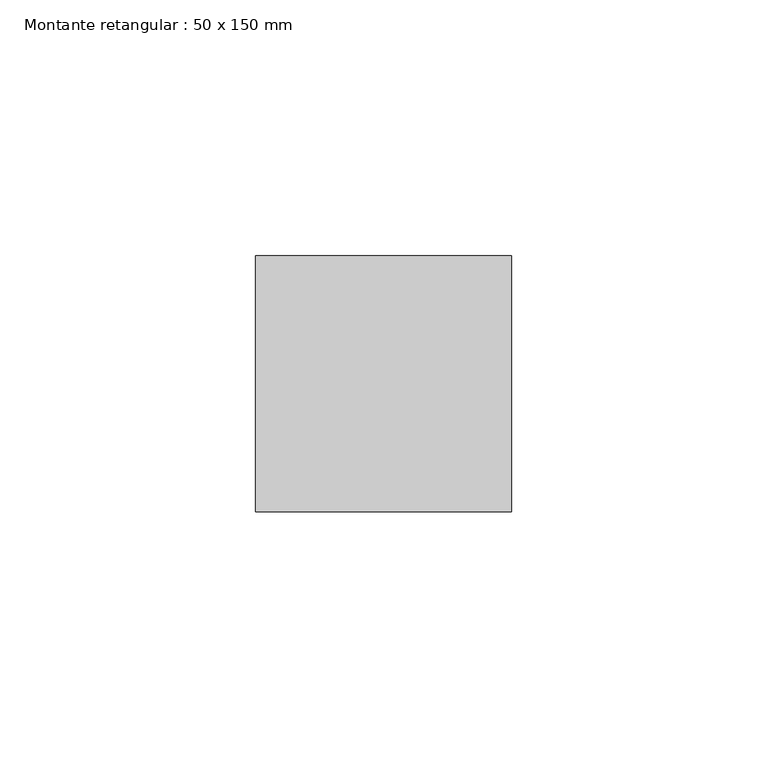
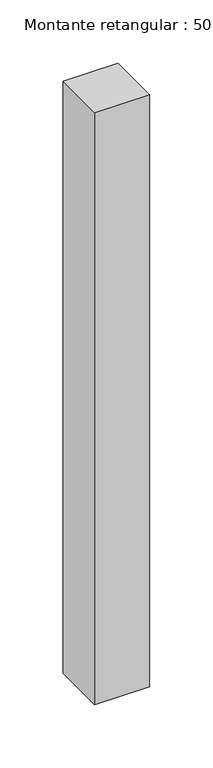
"""IFC4 building model written with IfcOpenShell, lengths in millimetres: member geometry, Montante retangular : 50 x 150 mm."""

from ifc_helpers import new_model, si_unit, frame, origin, place, context, project, spatial, polyline, outline, extrude, source, transform, mapped, element, save


def montante_retangular_50_x_150_mm_810cb2d8(model_context):
    return source(origin(), model_context, "Body", "SweptSolid", [
        extrude(outline(polyline([(0.0, 25.0), (0.0, -25.0), (-50.0, -25.0), (-50.0, 25.0), (0.0, 25.0)])), frame((0.0, 0.0, -570.8333333), z_axis=(0.0, 0.0, 1.0), x_axis=(1.0, 0.0, 0.0)), (0.0, 0.0, 1.0), 570.8333333),
    ])


if __name__ == "__main__":
    model = new_model("IFC4")
    model_context = context("Model", 3, world=origin())
    ifc_project = project(units=[si_unit("LENGTHUNIT", "METRE", prefix="MILLI")], contexts=[model_context])
    site = spatial("IfcSite", under=ifc_project)
    building = spatial("IfcBuilding", under=site)
    placement = place(None, origin())
    montante_retangular_50_x_150_mm_shape = montante_retangular_50_x_150_mm_810cb2d8(model_context)
    element("IfcMember", 1, ObjectType="Montante retangular : 50 x 150 mm", at=placement, inside=building, context=model_context, shape_type="MappedRepresentation", body=[
        mapped(montante_retangular_50_x_150_mm_shape, transform((0.0, 0.0, 0.0), x_axis=(1.0, 0.0, 0.0), y_axis=(0.0, 1.0, 0.0), z_axis=(0.0, 0.0, 1.0))),
    ])
    save(model, "model.ifc")
